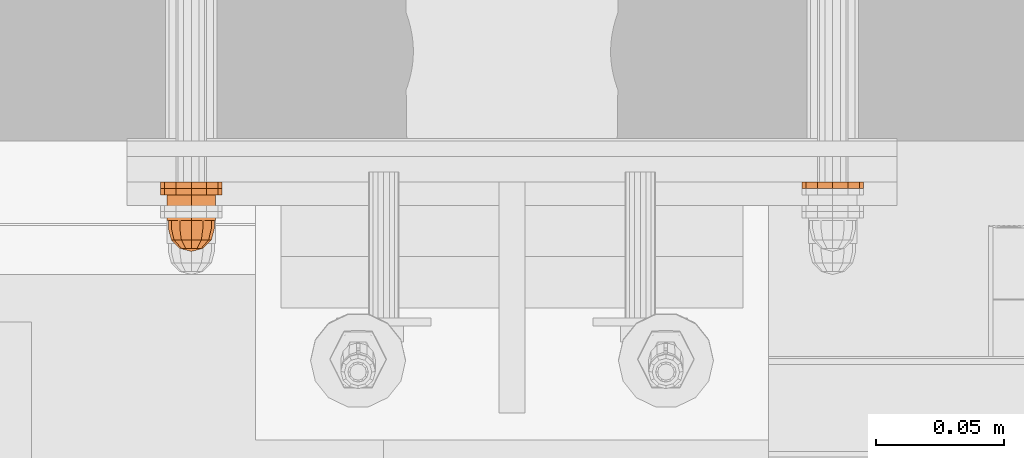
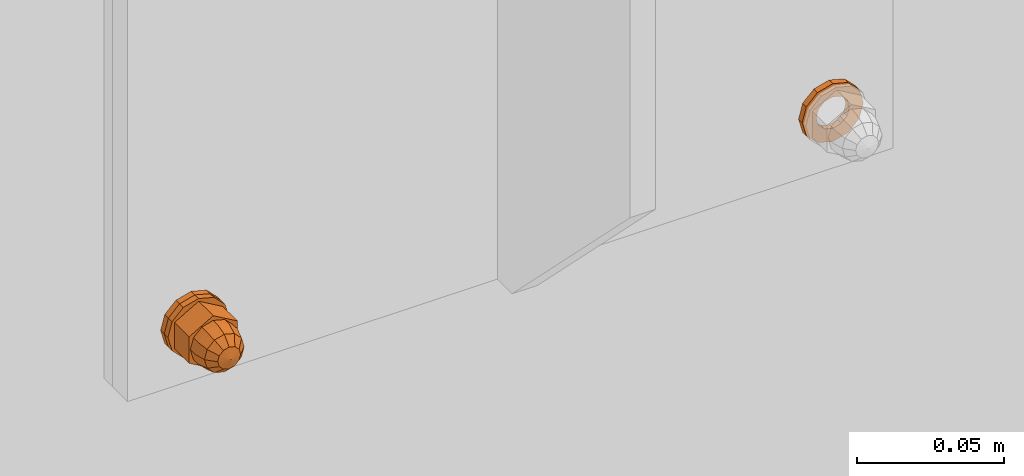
# One storey, part 148 of 162: 4 proxies.
"""IFC2X3 building model written with IfcOpenShell, lengths in millimetres."""

from ifc_helpers import new_model, entity, si_unit, converted_unit, origin_with_axes, place, context, project, spatial, faceted_brep, material, element, save


model = new_model("IFC2X3")

# Units and contexts
model_context = context("Model", 3, precision=1e-09, world=origin_with_axes())
ifc_project = project(units=[si_unit("LENGTHUNIT", "METRE", prefix="MILLI"), si_unit("AREAUNIT", "SQUARE_METRE"), si_unit("VOLUMEUNIT", "CUBIC_METRE"), converted_unit("PLANEANGLEUNIT", "DEGREE", entity("IfcPlaneAngleMeasure", 0.01745329), si_unit("PLANEANGLEUNIT", "RADIAN"), dimensions=[0, 0, 0, 0, 0, 0, 0])], contexts=[model_context])

# Site, building, storey
site_placement = place(None, origin_with_axes())
site = spatial("IfcSite", under=ifc_project, at=site_placement, Name="Hermannstra?e 1a, 60318 Frankfurt", CompositionType="ELEMENT")
building_placement = place(site_placement, origin_with_axes())
building = spatial("IfcBuilding", under=site, at=building_placement, Name="Struktur 1", CompositionType="ELEMENT")
storey_placement = place(building_placement, origin_with_axes())
storey = spatial("IfcBuildingStorey", under=building, at=storey_placement, Name="Default Storey", CompositionType="ELEMENT", Elevation=0.0)

# Proxies
ifc_material_1 = material(Name="Kunststoff")
proxy_1_placement = place(None, origin_with_axes())
element("IfcBuildingElementProxy", 1, at=proxy_1_placement, inside=storey, material=ifc_material_1, ObjectType="-", context=model_context, shape_type="Brep", body=[
    faceted_brep([(5687.917059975, 2717.109373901, 17222.999), (5687.917059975, 2719.609373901, 17222.999), (5686.309364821, 2719.609373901, 17216.999), (5686.309364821, 2717.109373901, 17216.999), (5692.309364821, 2719.609373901, 17227.391304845), (5698.309364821, 2719.609373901, 17228.999), (5704.309364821, 2719.609373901, 17227.391304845), (5708.701669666, 2719.609373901, 17222.999), (5710.309364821, 2719.609373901, 17216.999), (5708.701669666, 2719.609373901, 17210.999), (5704.309364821, 2719.609373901, 17206.606695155), (5698.309364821, 2719.609373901, 17204.999), (5692.309364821, 2719.609373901, 17206.606695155), (5687.917059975, 2719.609373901, 17210.999), (5695.059364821, 2719.609373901, 17222.628165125), (5692.680199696, 2719.609373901, 17220.249), (5691.809364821, 2719.609373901, 17216.999), (5692.680199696, 2719.609373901, 17213.749), (5695.059364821, 2719.609373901, 17211.369834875), (5698.309364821, 2719.609373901, 17210.499), (5701.559364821, 2719.609373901, 17211.369834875), (5703.938529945, 2719.609373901, 17213.749), (5704.809364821, 2719.609373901, 17216.999), (5703.938529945, 2719.609373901, 17220.249), (5701.559364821, 2719.609373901, 17222.628165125), (5698.309364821, 2719.609373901, 17223.499), (5691.809364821, 2717.109373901, 17216.999), (5692.680199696, 2717.109373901, 17220.249), (5692.309364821, 2717.109373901, 17227.391304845), (5687.917059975, 2717.109373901, 17210.999), (5692.309364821, 2717.109373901, 17206.606695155), (5698.309364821, 2717.109373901, 17204.999), (5704.309364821, 2717.109373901, 17206.606695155), (5708.701669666, 2717.109373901, 17210.999), (5710.309364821, 2717.109373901, 17216.999), (5708.701669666, 2717.109373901, 17222.999), (5704.309364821, 2717.109373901, 17227.391304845), (5698.309364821, 2717.109373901, 17228.999), (5695.059364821, 2717.109373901, 17222.628165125), (5698.309364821, 2717.109373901, 17223.499), (5701.559364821, 2717.109373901, 17222.628165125), (5703.938529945, 2717.109373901, 17220.249), (5704.809364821, 2717.109373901, 17216.999), (5703.938529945, 2717.109373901, 17213.749), (5701.559364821, 2717.109373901, 17211.369834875), (5698.309364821, 2717.109373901, 17210.499), (5695.059364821, 2717.109373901, 17211.369834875), (5692.680199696, 2717.109373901, 17213.749)], [[[0, 1, 2, 3]], [[1, 4, 5, 6, 7, 8, 9, 10, 11, 12, 13, 2], [14, 15, 16, 17, 18, 19, 20, 21, 22, 23, 24, 25]], [[26, 16, 15, 27]], [[28, 0, 3, 29, 30, 31, 32, 33, 34, 35, 36, 37], [26, 27, 38, 39, 40, 41, 42, 43, 44, 45, 46, 47]], [[1, 0, 28, 4]], [[16, 26, 47, 17]], [[3, 2, 13, 29]], [[27, 15, 14, 38]], [[4, 28, 37, 5]], [[17, 47, 46, 18]], [[29, 13, 12, 30]], [[38, 14, 25, 39]], [[18, 46, 45, 19]], [[5, 37, 36, 6]], [[39, 25, 24, 40]], [[30, 12, 11, 31]], [[19, 45, 44, 20]], [[6, 36, 35, 7]], [[40, 24, 23, 41]], [[31, 11, 10, 32]], [[20, 44, 43, 21]], [[7, 35, 34, 8]], [[41, 23, 22, 42]], [[32, 10, 9, 33]], [[21, 43, 42, 22]], [[8, 34, 33, 9]]]),
])
ifc_material_2 = material(Name="A4")
proxy_2_placement = place(None, origin_with_axes())
element("IfcBuildingElementProxy", 2, at=proxy_2_placement, inside=storey, material=ifc_material_2, ObjectType="-", context=model_context, shape_type="Brep", body=[
    faceted_brep([(5442.309364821, 2714.609373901, 17216.999), (5442.309364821, 2704.609373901, 17216.999), (5443.113212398, 2704.609373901, 17213.999), (5443.113212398, 2714.609373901, 17213.999), (5445.309364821, 2704.609373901, 17211.802847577), (5445.309364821, 2714.609373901, 17211.802847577), (5443.113212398, 2714.609373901, 17219.999), (5443.113212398, 2704.609373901, 17219.999), (5438.82949554, 2714.609373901, 17222.472205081), (5448.309364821, 2714.609373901, 17227.945410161), (5457.789234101, 2714.609373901, 17222.472205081), (5457.789234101, 2714.609373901, 17211.525794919), (5448.309364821, 2714.609373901, 17206.052589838), (5438.82949554, 2714.609373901, 17211.525794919), (5445.309364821, 2714.609373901, 17222.195152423), (5448.309364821, 2714.609373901, 17210.999), (5451.309364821, 2714.609373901, 17211.802847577), (5453.505517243, 2714.609373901, 17213.999), (5454.309364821, 2714.609373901, 17216.999), (5453.505517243, 2714.609373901, 17219.999), (5451.309364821, 2714.609373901, 17222.195152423), (5448.309364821, 2714.609373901, 17222.999), (5448.309364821, 2704.609373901, 17227.945410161), (5438.82949554, 2704.609373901, 17222.472205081), (5438.82949554, 2704.609373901, 17211.525794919), (5448.309364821, 2704.609373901, 17206.052589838), (5457.789234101, 2704.609373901, 17211.525794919), (5457.789234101, 2704.609373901, 17222.472205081), (5445.309364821, 2704.609373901, 17222.195152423), (5448.309364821, 2704.609373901, 17222.999), (5451.309364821, 2704.609373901, 17222.195152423), (5453.505517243, 2704.609373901, 17219.999), (5454.309364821, 2704.609373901, 17216.999), (5453.505517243, 2704.609373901, 17213.999), (5451.309364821, 2704.609373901, 17211.802847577), (5448.309364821, 2704.609373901, 17210.999)], [[[0, 1, 2, 3]], [[3, 2, 4, 5]], [[1, 0, 6, 7]], [[8, 9, 10, 11, 12, 13], [14, 6, 0, 3, 5, 15, 16, 17, 18, 19, 20, 21]], [[22, 23, 24, 25, 26, 27], [1, 7, 28, 29, 30, 31, 32, 33, 34, 35, 4, 2]], [[7, 6, 14, 28]], [[24, 23, 8, 13]], [[5, 4, 35, 15]], [[13, 12, 25, 24]], [[28, 14, 21, 29]], [[23, 22, 9, 8]], [[15, 35, 34, 16]], [[12, 11, 26, 25]], [[29, 21, 20, 30]], [[22, 27, 10, 9]], [[16, 34, 33, 17]], [[27, 26, 11, 10]], [[30, 20, 19, 31]], [[17, 33, 32, 18]], [[31, 19, 18, 32]]]),
    faceted_brep([(5448.309364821, 2704.609373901, 17225.999), (5448.309364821, 2701.609373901, 17225.999), (5452.809364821, 2701.609373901, 17224.793228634), (5452.809364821, 2704.609373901, 17224.793228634), (5443.809364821, 2704.609373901, 17224.793228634), (5443.809364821, 2701.609373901, 17224.793228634), (5440.515136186, 2701.609373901, 17212.499), (5443.809364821, 2701.609373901, 17209.204771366), (5448.309364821, 2701.609373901, 17207.999), (5452.809364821, 2701.609373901, 17209.204771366), (5456.103593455, 2701.609373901, 17212.499), (5457.309364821, 2701.609373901, 17216.999), (5456.103593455, 2701.609373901, 17221.499), (5440.515136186, 2701.609373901, 17221.499), (5439.309364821, 2701.609373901, 17216.999), (5456.103593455, 2704.609373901, 17212.499), (5452.809364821, 2704.609373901, 17209.204771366), (5448.309364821, 2704.609373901, 17207.999), (5443.809364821, 2704.609373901, 17209.204771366), (5440.515136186, 2704.609373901, 17212.499), (5439.309364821, 2704.609373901, 17216.999), (5440.515136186, 2704.609373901, 17221.499), (5456.103593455, 2704.609373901, 17221.499), (5457.309364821, 2704.609373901, 17216.999)], [[[0, 1, 2, 3]], [[1, 0, 4, 5]], [[6, 7, 8, 9, 10, 11, 12, 2, 1, 5, 13, 14]], [[15, 16, 17, 18, 19, 20, 21, 4, 0, 3, 22, 23]], [[3, 2, 12, 22]], [[5, 4, 21, 13]], [[22, 12, 11, 23]], [[13, 21, 20, 14]], [[7, 18, 17, 8]], [[19, 6, 14, 20]], [[18, 7, 6, 19]], [[23, 11, 10, 15]], [[8, 17, 16, 9]], [[15, 10, 9, 16]]]),
    faceted_brep([(5440.515136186, 2701.609373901, 17221.499), (5441.559364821, 2697.109373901, 17220.896114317), (5444.412250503, 2697.109373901, 17223.749), (5443.809364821, 2701.609373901, 17224.793228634), (5456.103593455, 2701.609373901, 17212.499), (5452.809364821, 2701.609373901, 17209.204771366), (5448.309364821, 2701.609373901, 17207.999), (5443.809364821, 2701.609373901, 17209.204771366), (5440.515136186, 2701.609373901, 17212.499), (5439.309364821, 2701.609373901, 17216.999), (5448.309364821, 2701.609373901, 17225.999), (5452.809364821, 2701.609373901, 17224.793228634), (5456.103593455, 2701.609373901, 17221.499), (5457.309364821, 2701.609373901, 17216.999), (5448.309364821, 2697.109373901, 17224.793228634), (5440.515136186, 2697.109373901, 17216.999), (5443.809364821, 2693.815145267, 17216.999), (5444.412250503, 2693.815145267, 17219.249), (5452.206479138, 2697.109373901, 17223.749), (5446.059364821, 2693.815145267, 17220.896114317), (5441.559364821, 2697.109373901, 17213.101885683), (5444.412250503, 2693.815145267, 17214.749), (5448.309364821, 2693.815145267, 17221.499), (5448.309364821, 2692.609373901, 17216.999), (5444.412250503, 2697.109373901, 17210.249), (5446.059364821, 2693.815145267, 17213.101885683), (5448.309364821, 2697.109373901, 17209.204771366), (5455.059364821, 2697.109373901, 17220.896114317), (5450.559364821, 2693.815145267, 17220.896114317), (5448.309364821, 2693.815145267, 17212.499), (5452.206479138, 2697.109373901, 17210.249), (5450.559364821, 2693.815145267, 17213.101885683), (5456.103593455, 2697.109373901, 17216.999), (5452.206479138, 2693.815145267, 17219.249), (5455.059364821, 2697.109373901, 17213.101885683), (5452.206479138, 2693.815145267, 17214.749), (5452.809364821, 2693.815145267, 17216.999)], [[[0, 1, 2, 3]], [[4, 5, 6, 7, 8, 9, 0, 3, 10, 11, 12, 13]], [[3, 2, 14, 10]], [[15, 16, 17, 1]], [[1, 0, 9, 15]], [[10, 14, 18, 11]], [[1, 17, 19, 2]], [[16, 15, 20, 21]], [[2, 19, 22, 14]], [[23, 17, 16]], [[24, 25, 21, 20]], [[23, 16, 21]], [[24, 7, 6, 26]], [[20, 8, 7, 24]], [[15, 9, 8, 20]], [[11, 18, 27, 12]], [[14, 22, 28, 18]], [[23, 19, 17]], [[26, 29, 25, 24]], [[23, 21, 25]], [[23, 22, 19]], [[26, 6, 5, 30]], [[29, 26, 30, 31]], [[23, 25, 29]], [[12, 27, 32, 13]], [[18, 28, 33, 27]], [[23, 28, 22]], [[23, 29, 31]], [[23, 33, 28]], [[30, 5, 4, 34]], [[31, 30, 34, 35]], [[23, 31, 35]], [[13, 32, 34, 4]], [[27, 33, 36, 32]], [[23, 36, 33]], [[23, 35, 36]], [[35, 34, 32, 36]]]),
])
proxy_3_placement = place(None, origin_with_axes())
element("IfcBuildingElementProxy", 3, at=proxy_3_placement, inside=storey, material=ifc_material_2, ObjectType="-", context=model_context, shape_type="Brep", body=[
    faceted_brep([(5458.701669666, 2714.609373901, 17222.999), (5458.701669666, 2717.109373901, 17222.999), (5454.309364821, 2717.109373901, 17227.391304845), (5454.309364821, 2714.609373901, 17227.391304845), (5448.309364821, 2714.609373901, 17228.999), (5442.309364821, 2714.609373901, 17227.391304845), (5437.917059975, 2714.609373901, 17222.999), (5436.309364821, 2714.609373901, 17216.999), (5437.917059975, 2714.609373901, 17210.999), (5442.309364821, 2714.609373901, 17206.606695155), (5448.309364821, 2714.609373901, 17204.999), (5454.309364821, 2714.609373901, 17206.606695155), (5458.701669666, 2714.609373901, 17210.999), (5460.309364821, 2714.609373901, 17216.999), (5445.059364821, 2714.609373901, 17222.628165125), (5448.309364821, 2714.609373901, 17223.499), (5451.559364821, 2714.609373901, 17222.628165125), (5453.938529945, 2714.609373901, 17220.249), (5454.809364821, 2714.609373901, 17216.999), (5453.938529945, 2714.609373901, 17213.749), (5451.559364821, 2714.609373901, 17211.369834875), (5448.309364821, 2714.609373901, 17210.499), (5445.059364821, 2714.609373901, 17211.369834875), (5442.680199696, 2714.609373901, 17213.749), (5441.809364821, 2714.609373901, 17216.999), (5442.680199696, 2714.609373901, 17220.249), (5460.309364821, 2717.109373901, 17216.999), (5458.701669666, 2717.109373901, 17210.999), (5454.309364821, 2717.109373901, 17206.606695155), (5448.309364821, 2717.109373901, 17204.999), (5442.309364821, 2717.109373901, 17206.606695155), (5437.917059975, 2717.109373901, 17210.999), (5436.309364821, 2717.109373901, 17216.999), (5437.917059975, 2717.109373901, 17222.999), (5442.309364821, 2717.109373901, 17227.391304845), (5448.309364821, 2717.109373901, 17228.999), (5454.809364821, 2717.109373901, 17216.999), (5453.938529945, 2717.109373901, 17220.249), (5451.559364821, 2717.109373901, 17222.628165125), (5448.309364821, 2717.109373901, 17223.499), (5445.059364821, 2717.109373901, 17222.628165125), (5442.680199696, 2717.109373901, 17220.249), (5441.809364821, 2717.109373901, 17216.999), (5442.680199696, 2717.109373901, 17213.749), (5445.059364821, 2717.109373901, 17211.369834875), (5448.309364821, 2717.109373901, 17210.499), (5451.559364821, 2717.109373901, 17211.369834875), (5453.938529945, 2717.109373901, 17213.749)], [[[0, 1, 2, 3]], [[3, 4, 5, 6, 7, 8, 9, 10, 11, 12, 13, 0], [14, 15, 16, 17, 18, 19, 20, 21, 22, 23, 24, 25]], [[1, 26, 27, 28, 29, 30, 31, 32, 33, 34, 35, 2], [36, 37, 38, 39, 40, 41, 42, 43, 44, 45, 46, 47]], [[37, 17, 16, 38]], [[1, 0, 13, 26]], [[17, 37, 36, 18]], [[38, 16, 15, 39]], [[3, 2, 35, 4]], [[26, 13, 12, 27]], [[18, 36, 47, 19]], [[39, 15, 14, 40]], [[4, 35, 34, 5]], [[27, 12, 11, 28]], [[19, 47, 46, 20]], [[40, 14, 25, 41]], [[5, 34, 33, 6]], [[24, 42, 41, 25]], [[28, 11, 10, 29]], [[20, 46, 45, 21]], [[23, 43, 42, 24]], [[6, 33, 32, 7]], [[44, 22, 21, 45]], [[43, 23, 22, 44]], [[29, 10, 9, 30]], [[7, 32, 31, 8]], [[30, 9, 8, 31]]]),
])
proxy_4_placement = place(None, origin_with_axes())
element("IfcBuildingElementProxy", 4, at=proxy_4_placement, inside=storey, material=ifc_material_1, ObjectType="-", context=model_context, shape_type="Brep", body=[
    faceted_brep([(5437.917059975, 2717.109373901, 17222.999), (5437.917059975, 2719.609373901, 17222.999), (5436.309364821, 2719.609373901, 17216.999), (5436.309364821, 2717.109373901, 17216.999), (5442.309364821, 2719.609373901, 17227.391304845), (5448.309364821, 2719.609373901, 17228.999), (5454.309364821, 2719.609373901, 17227.391304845), (5458.701669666, 2719.609373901, 17222.999), (5460.309364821, 2719.609373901, 17216.999), (5458.701669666, 2719.609373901, 17210.999), (5454.309364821, 2719.609373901, 17206.606695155), (5448.309364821, 2719.609373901, 17204.999), (5442.309364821, 2719.609373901, 17206.606695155), (5437.917059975, 2719.609373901, 17210.999), (5445.059364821, 2719.609373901, 17222.628165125), (5442.680199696, 2719.609373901, 17220.249), (5441.809364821, 2719.609373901, 17216.999), (5442.680199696, 2719.609373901, 17213.749), (5445.059364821, 2719.609373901, 17211.369834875), (5448.309364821, 2719.609373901, 17210.499), (5451.559364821, 2719.609373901, 17211.369834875), (5453.938529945, 2719.609373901, 17213.749), (5454.809364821, 2719.609373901, 17216.999), (5453.938529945, 2719.609373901, 17220.249), (5451.559364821, 2719.609373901, 17222.628165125), (5448.309364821, 2719.609373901, 17223.499), (5441.809364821, 2717.109373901, 17216.999), (5442.680199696, 2717.109373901, 17220.249), (5442.309364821, 2717.109373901, 17227.391304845), (5437.917059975, 2717.109373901, 17210.999), (5442.309364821, 2717.109373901, 17206.606695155), (5448.309364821, 2717.109373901, 17204.999), (5454.309364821, 2717.109373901, 17206.606695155), (5458.701669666, 2717.109373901, 17210.999), (5460.309364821, 2717.109373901, 17216.999), (5458.701669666, 2717.109373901, 17222.999), (5454.309364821, 2717.109373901, 17227.391304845), (5448.309364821, 2717.109373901, 17228.999), (5445.059364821, 2717.109373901, 17222.628165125), (5448.309364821, 2717.109373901, 17223.499), (5451.559364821, 2717.109373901, 17222.628165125), (5453.938529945, 2717.109373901, 17220.249), (5454.809364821, 2717.109373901, 17216.999), (5453.938529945, 2717.109373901, 17213.749), (5451.559364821, 2717.109373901, 17211.369834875), (5448.309364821, 2717.109373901, 17210.499), (5445.059364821, 2717.109373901, 17211.369834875), (5442.680199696, 2717.109373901, 17213.749)], [[[0, 1, 2, 3]], [[1, 4, 5, 6, 7, 8, 9, 10, 11, 12, 13, 2], [14, 15, 16, 17, 18, 19, 20, 21, 22, 23, 24, 25]], [[26, 16, 15, 27]], [[28, 0, 3, 29, 30, 31, 32, 33, 34, 35, 36, 37], [26, 27, 38, 39, 40, 41, 42, 43, 44, 45, 46, 47]], [[1, 0, 28, 4]], [[16, 26, 47, 17]], [[3, 2, 13, 29]], [[27, 15, 14, 38]], [[4, 28, 37, 5]], [[17, 47, 46, 18]], [[29, 13, 12, 30]], [[38, 14, 25, 39]], [[18, 46, 45, 19]], [[5, 37, 36, 6]], [[39, 25, 24, 40]], [[30, 12, 11, 31]], [[19, 45, 44, 20]], [[6, 36, 35, 7]], [[40, 24, 23, 41]], [[31, 11, 10, 32]], [[20, 44, 43, 21]], [[7, 35, 34, 8]], [[41, 23, 22, 42]], [[32, 10, 9, 33]], [[21, 43, 42, 22]], [[8, 34, 33, 9]]]),
])

save(model, "model.ifc")
